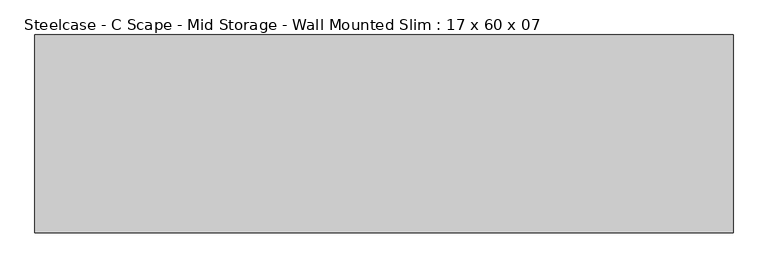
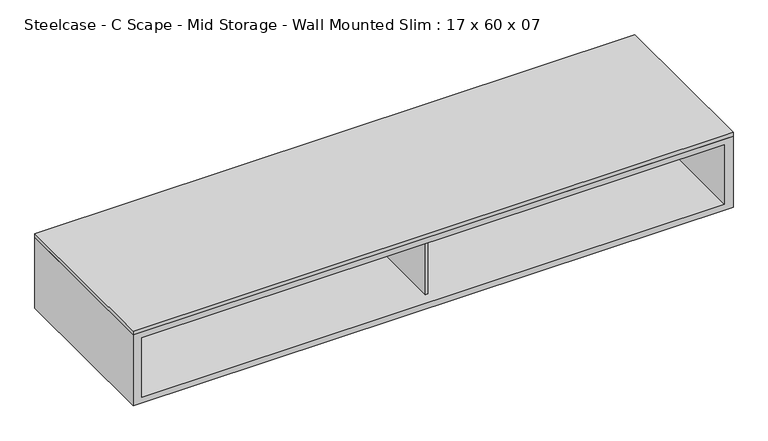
"""IFC4 building model written with IfcOpenShell, lengths in millimetres: furniture geometry, Steelcase - C Scape - Mid Storage - Wall Mounted Slim : 17 x 60 x 07."""

from ifc_helpers import new_model, si_unit, frame, origin, place, context, project, spatial, polyline, outline, extrude, faceted_brep, source, transform, mapped, element, save


def steelcase_c_scape_mid_storage_wall_mounted_slim_17_x_60_x_07_adf1d855(model_context):
    return source(origin(), model_context, "Body", "SolidModel", [
        extrude(outline(polyline([(1524.0, 215.9), (1524.0, -215.9), (0.0, -215.9), (0.0, 215.9), (1524.0, 215.9)])), frame((0.0, 0.0, 1028.7), z_axis=(0.0, 0.0, 1.0), x_axis=(1.0, 0.0, 0.0)), (0.0, 0.0, 1.0), 10.16),
        extrude(outline(polyline([(758.825, -187.1471039), (758.825, 206.3755809), (765.175, 206.3755809), (765.175, -187.1471039), (758.825, -187.1471039)])), frame((0.0, 0.0, 853.4399855), z_axis=(0.0, 0.0, 1.0), x_axis=(1.0, 0.0, 0.0)), (0.0, 0.0, 1.0), 160.0200145),
        faceted_brep([(1524.0, -215.9, 1028.7), (0.0, -215.9, 1028.7), (0.0, -215.9, 838.2), (1524.0, -215.9, 838.2), (1501.902, -215.9, 1013.46), (1501.902, -215.9, 853.4399855), (21.9711633, -215.9, 853.4399855), (21.9711633, -215.9, 1013.46), (1524.0, 215.9, 1028.7), (1524.0, 215.9, 838.2), (0.0, 215.9, 838.2), (0.0, 215.9, 1028.7), (1501.902, 206.3755809, 1013.46), (1501.902, 206.3755809, 853.4399855), (751.6619767, 206.3755809, 853.4399855), (21.9711633, 206.3755809, 853.4399855), (21.9711633, 206.3755809, 1013.46), (751.6619767, 206.3755809, 1013.46)], [[[0, 1, 2, 3], [4, 5, 6, 7]], [[8, 9, 10, 11]], [[1, 0, 8, 11]], [[2, 1, 11, 10]], [[3, 2, 10, 9]], [[0, 3, 9, 8]], [[5, 4, 12, 13]], [[6, 5, 13, 14, 15]], [[7, 6, 15, 16]], [[4, 7, 16, 17, 12]], [[14, 17, 16, 15]], [[17, 14, 13, 12]]]),
    ])


if __name__ == "__main__":
    model = new_model("IFC4")
    model_context = context("Model", 3, world=origin())
    ifc_project = project(units=[si_unit("LENGTHUNIT", "METRE", prefix="MILLI")], contexts=[model_context])
    site = spatial("IfcSite", under=ifc_project)
    building = spatial("IfcBuilding", under=site)
    placement = place(None, origin())
    steelcase_c_scape_mid_storage_wall_mounted_slim_17_x_60_x_07_shape = steelcase_c_scape_mid_storage_wall_mounted_slim_17_x_60_x_07_adf1d855(model_context)
    element("IfcFurniture", 1, ObjectType="Steelcase - C Scape - Mid Storage - Wall Mounted Slim : 17 x 60 x 07", at=placement, inside=building, context=model_context, shape_type="MappedRepresentation", body=[
        mapped(steelcase_c_scape_mid_storage_wall_mounted_slim_17_x_60_x_07_shape, transform((0.0, 0.0, 0.0), x_axis=(1.0, 0.0, 0.0), y_axis=(0.0, 1.0, 0.0), z_axis=(0.0, 0.0, 1.0))),
    ])
    save(model, "model.ifc")
